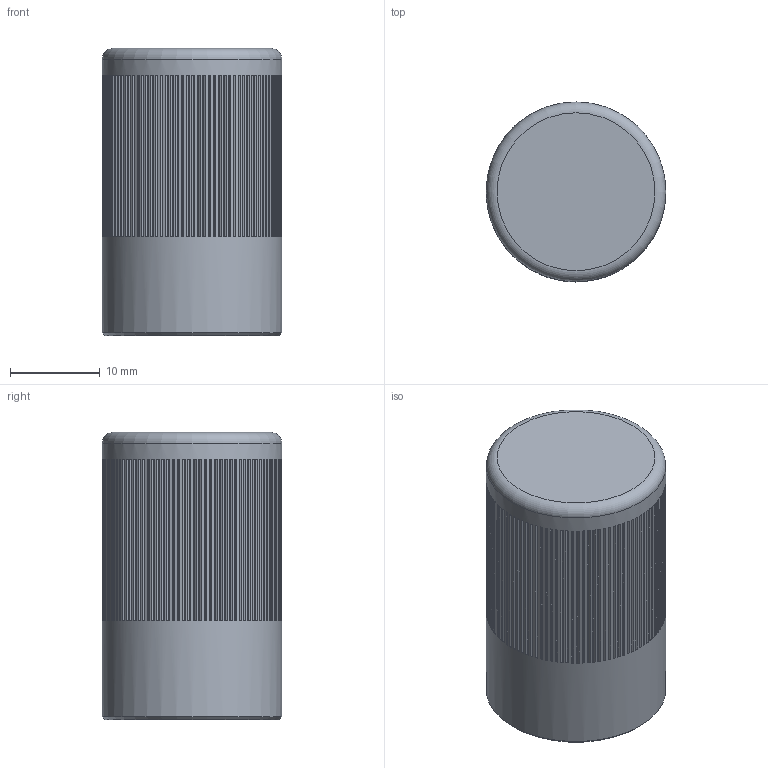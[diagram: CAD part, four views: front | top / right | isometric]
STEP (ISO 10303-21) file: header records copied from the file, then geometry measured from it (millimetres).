
FILE_DESCRIPTION(('Open CASCADE Model'),'2;1');
FILE_NAME('FL-PIN-knob-20','2026-10-19T21:24:09',('Author'),( 'Open CASCADE'),'Open CASCADE STEP processor 8.0','build123d', 'Unknown');
FILE_SCHEMA(('AUTOMOTIVE_DESIGN { 1 0 10303 214 1 1 1 1 }'));
Length unit declared in the file: millimetre
Products named in the file (2): FL-PIN-knob-20; brass_FL-PIN20__k
Assembly tree (1 placements, depth 2):
  FL-PIN-knob-20
    brass_FL-PIN20__k
Bounding box: 20 x 20 x 32 mm (x, y, z)
Volume: 9878.7 mm3; surface area: 2953.8 mm2
Topology: 1 solids, 1 shells, 429 faces, 961 edges, 640 vertices
Faces by surface type: plane 424, cylinder 3, cone 1, torus 1
Full cylindrical faces by diameter (mm): 3.3 x1, 5.1 x1, 20 x1
Entity records: 23137 total; most frequent: CARTESIAN_POINT 5218, DIRECTION 2702, ORIENTED_EDGE 1922, PCURVE 1922, DEFINITIONAL_REPRESENTATION 1922, B_SPLINE_CURVE_WITH_KNOTS 1264, LINE 1180, VECTOR 1180
